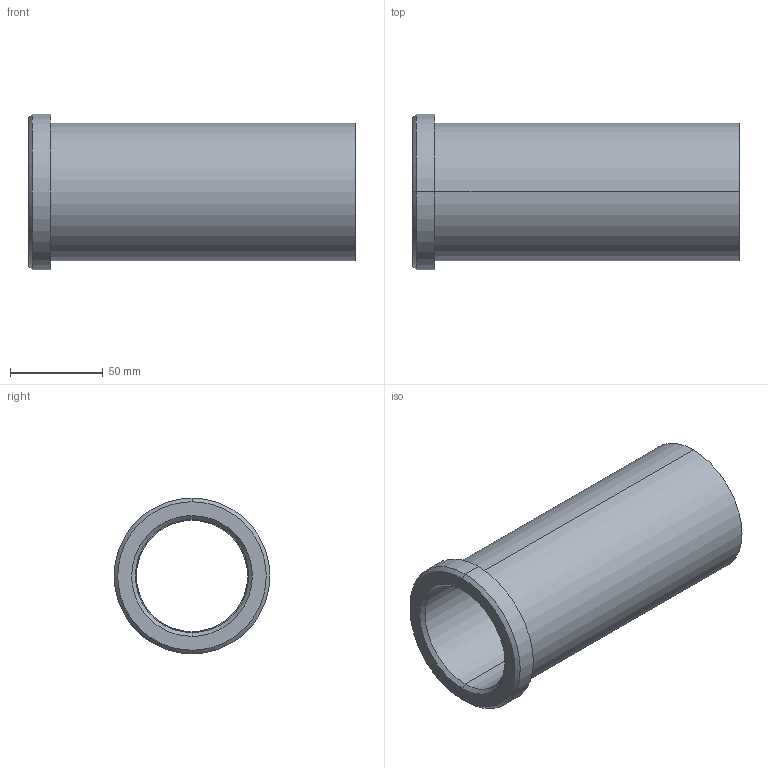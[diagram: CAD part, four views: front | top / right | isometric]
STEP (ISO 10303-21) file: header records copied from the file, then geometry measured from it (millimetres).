
FILE_DESCRIPTION(('CATIA V5 STEP Exchange'),'2;1');
FILE_NAME('C:\Users\Utente\Desktop\IO LAVORO\3D X SITO CF\X SITO\PLASTICA\353\353-60X176.stp','2021-05-14T17:55:33+00:00',('none'),('none'),'CATIA Version 5 Release 20 GA (IN-10)','CATIA V5 STEP AP203','none');
FILE_SCHEMA(('CONFIG_CONTROL_DESIGN'));
Length unit declared in the file: millimetre
Products named in the file (1): 353-60x176
Bounding box: 176 x 84 x 84 mm (x, y, z)
Volume: 267605.6 mm3; surface area: 79300.5 mm2
Topology: 1 solids, 1 shells, 18 faces, 58 edges, 44 vertices
Faces by surface type: cylinder 8, plane 4, cone 4, torus 2
Entity records: 840 total; most frequent: CARTESIAN_POINT 289, ORIENTED_EDGE 116, DIRECTION 82, EDGE_CURVE 58, AXIS2_PLACEMENT_3D 53, VERTEX_POINT 44, CIRCLE 34, EDGE_LOOP 22
